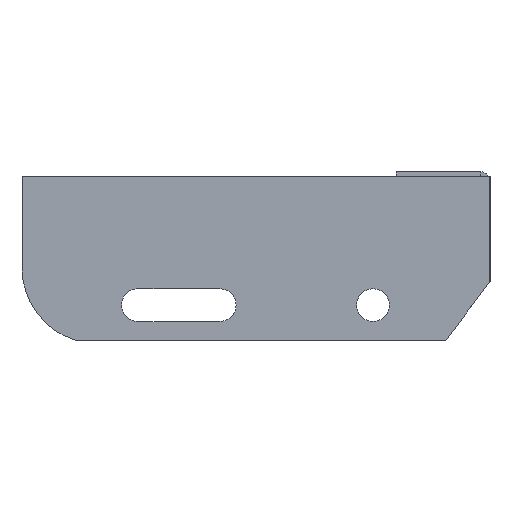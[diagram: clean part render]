
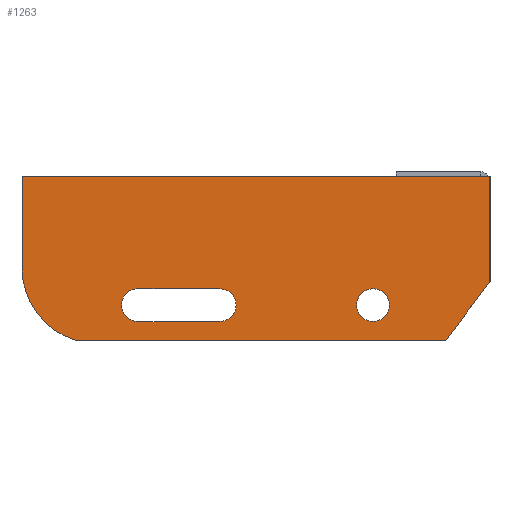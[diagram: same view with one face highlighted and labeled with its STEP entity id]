
A CAD part, left-side view. The second image highlights one B-rep face of the part: STEP entity #1263.
In plain terms, the highlighted planar face has unit normal (-1, 0, 0) as drawn and (0, 0, 1) by its records, which use the part's own axes.
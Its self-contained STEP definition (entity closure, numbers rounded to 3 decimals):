
#13 = CARTESIAN_POINT ( 'NONE',  ( -115.5, -62., 3. ) ) ;
#24 = DIRECTION ( 'NONE',  ( 1., 0., 0. ) ) ;
#54 = DIRECTION ( 'NONE',  ( 0., 0., 1. ) ) ;
#67 = VERTEX_POINT ( 'NONE', #543 ) ;
#97 = CARTESIAN_POINT ( 'NONE',  ( -57., -55., 3. ) ) ;
#103 = EDGE_CURVE ( 'NONE', #838, #1768, #1797, .T. ) ;
#121 = VERTEX_POINT ( 'NONE', #1024 ) ;
#131 = VERTEX_POINT ( 'NONE', #1472 ) ;
#136 = DIRECTION ( 'NONE',  ( 1., 0., 0. ) ) ;
#226 = VECTOR ( 'NONE', #497, 1000. ) ;
#235 = ORIENTED_EDGE ( 'NONE', *, *, #250, .F. ) ;
#245 = DIRECTION ( 'NONE',  ( 1., 0., 0. ) ) ;
#250 = EDGE_CURVE ( 'NONE', #829, #352, #1227, .T. ) ;
#259 = DIRECTION ( 'NONE',  ( 0., -1., 0. ) ) ;
#260 = EDGE_CURVE ( 'NONE', #352, #1508, #926, .T. ) ;
#280 = ORIENTED_EDGE ( 'NONE', *, *, #910, .T. ) ;
#300 = VECTOR ( 'NONE', #1878, 1000. ) ;
#331 = AXIS2_PLACEMENT_3D ( 'NONE', #1283, #1907, #24 ) ;
#343 = CARTESIAN_POINT ( 'NONE',  ( -18.839, -70., 3. ) ) ;
#352 = VERTEX_POINT ( 'NONE', #1214 ) ;
#355 = EDGE_LOOP ( 'NONE', ( #984, #697 ) ) ;
#385 = EDGE_CURVE ( 'NONE', #812, #121, #1092, .T. ) ;
#393 = PLANE ( 'NONE',  #1681 ) ;
#414 = CARTESIAN_POINT ( 'NONE',  ( -177.26, -70., 3. ) ) ;
#439 = CARTESIAN_POINT ( 'NONE',  ( -200., -39., 3. ) ) ;
#460 = AXIS2_PLACEMENT_3D ( 'NONE', #1134, #1568, #1104 ) ;
#497 = DIRECTION ( 'NONE',  ( 1., 0., 0. ) ) ;
#503 = EDGE_CURVE ( 'NONE', #1508, #1249, #1651, .T. ) ;
#543 = CARTESIAN_POINT ( 'NONE',  ( 0., 0., 3. ) ) ;
#546 = FACE_BOUND ( 'NONE', #1638, .T. ) ;
#551 = DIRECTION ( 'NONE',  ( 0.602, 0.799, 0. ) ) ;
#557 = CIRCLE ( 'NONE', #825, 7. ) ;
#565 = ORIENTED_EDGE ( 'NONE', *, *, #503, .F. ) ;
#569 = DIRECTION ( 'NONE',  ( 1., 0., 0. ) ) ;
#627 = VECTOR ( 'NONE', #932, 1000. ) ;
#667 = EDGE_CURVE ( 'NONE', #1464, #829, #557, .T. ) ;
#674 = FACE_BOUND ( 'NONE', #355, .T. ) ;
#697 = ORIENTED_EDGE ( 'NONE', *, *, #960, .F. ) ;
#795 = ORIENTED_EDGE ( 'NONE', *, *, #1769, .F. ) ;
#802 = VERTEX_POINT ( 'NONE', #439 ) ;
#812 = VERTEX_POINT ( 'NONE', #97 ) ;
#825 = AXIS2_PLACEMENT_3D ( 'NONE', #834, #54, #245 ) ;
#829 = VERTEX_POINT ( 'NONE', #898 ) ;
#834 = CARTESIAN_POINT ( 'NONE',  ( -115.5, -55., 3. ) ) ;
#838 = VERTEX_POINT ( 'NONE', #1236 ) ;
#861 = CARTESIAN_POINT ( 'NONE',  ( -167.5, -39., 3. ) ) ;
#875 = DIRECTION ( 'NONE',  ( -1., 0., 0. ) ) ;
#898 = CARTESIAN_POINT ( 'NONE',  ( -115.5, -48., 3. ) ) ;
#910 = EDGE_CURVE ( 'NONE', #1768, #67, #1121, .T. ) ;
#915 = DIRECTION ( 'NONE',  ( 0., 0., 1. ) ) ;
#926 = CIRCLE ( 'NONE', #1938, 7. ) ;
#932 = DIRECTION ( 'NONE',  ( -1., 0., 0. ) ) ;
#960 = EDGE_CURVE ( 'NONE', #121, #812, #1153, .T. ) ;
#984 = ORIENTED_EDGE ( 'NONE', *, *, #385, .F. ) ;
#1004 = ORIENTED_EDGE ( 'NONE', *, *, #1922, .T. ) ;
#1024 = CARTESIAN_POINT ( 'NONE',  ( -43., -55., 3. ) ) ;
#1046 = EDGE_CURVE ( 'NONE', #1303, #838, #1746, .T. ) ;
#1092 = CIRCLE ( 'NONE', #1872, 7. ) ;
#1104 = DIRECTION ( 'NONE',  ( 1., 0., 0. ) ) ;
#1119 = AXIS2_PLACEMENT_3D ( 'NONE', #861, #1137, #1309 ) ;
#1121 = LINE ( 'NONE', #1885, #1219 ) ;
#1134 = CARTESIAN_POINT ( 'NONE',  ( -150.5, -55., 3. ) ) ;
#1137 = DIRECTION ( 'NONE',  ( 0., 0., 1. ) ) ;
#1153 = CIRCLE ( 'NONE', #331, 7. ) ;
#1163 = CARTESIAN_POINT ( 'NONE',  ( 0., -45., 3. ) ) ;
#1205 = ORIENTED_EDGE ( 'NONE', *, *, #260, .F. ) ;
#1214 = CARTESIAN_POINT ( 'NONE',  ( -150.5, -48., 3. ) ) ;
#1216 = LINE ( 'NONE', #1672, #1612 ) ;
#1219 = VECTOR ( 'NONE', #1408, 1000. ) ;
#1227 = LINE ( 'NONE', #1362, #627 ) ;
#1236 = CARTESIAN_POINT ( 'NONE',  ( -18.839, -70., 3. ) ) ;
#1248 = CARTESIAN_POINT ( 'NONE',  ( -150.5, -55., 3. ) ) ;
#1249 = VERTEX_POINT ( 'NONE', #1334 ) ;
#1263 = ADVANCED_FACE ( 'NONE', ( #1635, #674, #546 ), #393, .T. ) ;
#1283 = CARTESIAN_POINT ( 'NONE',  ( -50., -55., 3. ) ) ;
#1286 = VECTOR ( 'NONE', #875, 1000. ) ;
#1302 = CARTESIAN_POINT ( 'NONE',  ( 0., -45., 3. ) ) ;
#1303 = VERTEX_POINT ( 'NONE', #414 ) ;
#1309 = DIRECTION ( 'NONE',  ( 1., 0., 0. ) ) ;
#1334 = CARTESIAN_POINT ( 'NONE',  ( -150.5, -62., 3. ) ) ;
#1362 = CARTESIAN_POINT ( 'NONE',  ( -150.5, -48., 3. ) ) ;
#1378 = DIRECTION ( 'NONE',  ( 1., 0., 0. ) ) ;
#1386 = LINE ( 'NONE', #2010, #1286 ) ;
#1388 = EDGE_CURVE ( 'NONE', #67, #131, #1386, .T. ) ;
#1392 = DIRECTION ( 'NONE',  ( 0., 0., 1. ) ) ;
#1408 = DIRECTION ( 'NONE',  ( 0., 1., 0. ) ) ;
#1447 = VECTOR ( 'NONE', #551, 1000. ) ;
#1464 = VERTEX_POINT ( 'NONE', #13 ) ;
#1472 = CARTESIAN_POINT ( 'NONE',  ( -200., 0., 3. ) ) ;
#1508 = VERTEX_POINT ( 'NONE', #1892 ) ;
#1568 = DIRECTION ( 'NONE',  ( 0., 0., 1. ) ) ;
#1594 = EDGE_LOOP ( 'NONE', ( #280, #1649, #1004, #1705, #1686, #1618 ) ) ;
#1612 = VECTOR ( 'NONE', #259, 1000. ) ;
#1618 = ORIENTED_EDGE ( 'NONE', *, *, #103, .T. ) ;
#1623 = CARTESIAN_POINT ( 'NONE',  ( -150.5, -62., 3. ) ) ;
#1635 = FACE_OUTER_BOUND ( 'NONE', #1594, .T. ) ;
#1638 = EDGE_LOOP ( 'NONE', ( #795, #565, #1205, #235, #1653 ) ) ;
#1649 = ORIENTED_EDGE ( 'NONE', *, *, #1388, .T. ) ;
#1651 = CIRCLE ( 'NONE', #460, 7. ) ;
#1653 = ORIENTED_EDGE ( 'NONE', *, *, #667, .F. ) ;
#1672 = CARTESIAN_POINT ( 'NONE',  ( -200., 0., 3. ) ) ;
#1681 = AXIS2_PLACEMENT_3D ( 'NONE', #1926, #915, #569 ) ;
#1686 = ORIENTED_EDGE ( 'NONE', *, *, #1046, .T. ) ;
#1690 = DIRECTION ( 'NONE',  ( 0., 0., 1. ) ) ;
#1705 = ORIENTED_EDGE ( 'NONE', *, *, #1717, .T. ) ;
#1717 = EDGE_CURVE ( 'NONE', #802, #1303, #1836, .T. ) ;
#1746 = LINE ( 'NONE', #343, #300 ) ;
#1768 = VERTEX_POINT ( 'NONE', #1302 ) ;
#1769 = EDGE_CURVE ( 'NONE', #1249, #1464, #1933, .T. ) ;
#1797 = LINE ( 'NONE', #1163, #1447 ) ;
#1836 = CIRCLE ( 'NONE', #1119, 32.5 ) ;
#1837 = CARTESIAN_POINT ( 'NONE',  ( -50., -55., 3. ) ) ;
#1872 = AXIS2_PLACEMENT_3D ( 'NONE', #1837, #1690, #1378 ) ;
#1878 = DIRECTION ( 'NONE',  ( 1., 0., 0. ) ) ;
#1885 = CARTESIAN_POINT ( 'NONE',  ( 0., 0., 3. ) ) ;
#1892 = CARTESIAN_POINT ( 'NONE',  ( -157.5, -55., 3. ) ) ;
#1907 = DIRECTION ( 'NONE',  ( 0., 0., 1. ) ) ;
#1922 = EDGE_CURVE ( 'NONE', #131, #802, #1216, .T. ) ;
#1926 = CARTESIAN_POINT ( 'NONE',  ( -167.5, -39., 3. ) ) ;
#1933 = LINE ( 'NONE', #1623, #226 ) ;
#1938 = AXIS2_PLACEMENT_3D ( 'NONE', #1248, #1392, #136 ) ;
#2010 = CARTESIAN_POINT ( 'NONE',  ( 0., 0., 3. ) ) ;
